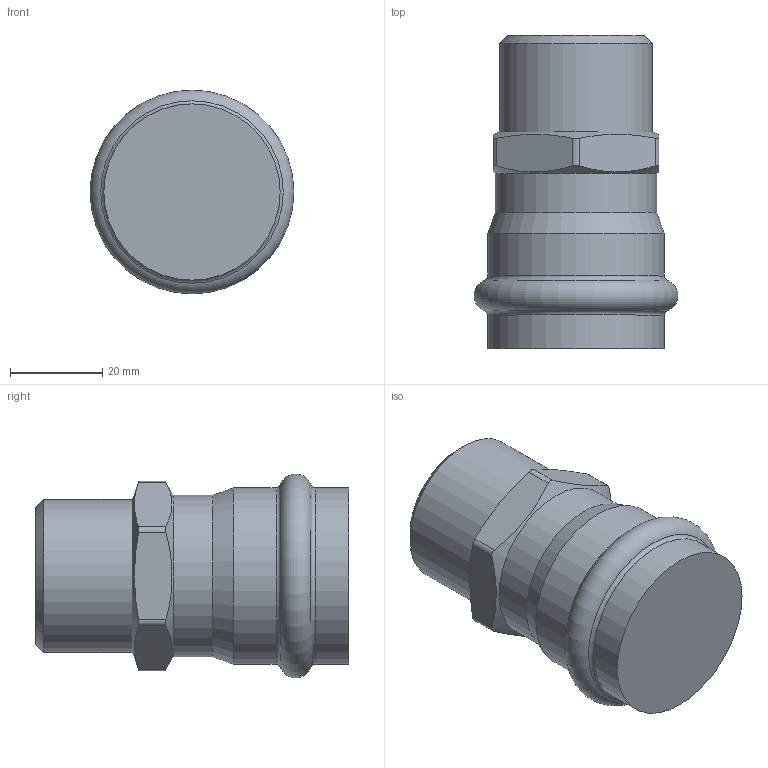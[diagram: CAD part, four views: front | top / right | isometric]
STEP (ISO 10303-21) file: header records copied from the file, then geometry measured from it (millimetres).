
FILE_DESCRIPTION(('STEP AP203'), '1');
FILE_NAME('VTi.901.I.003506', '', ('UNSPECIFIED'), ('UNSPECIFIED'), 'C3D Converter', 'C3D Toolkit', '');
FILE_SCHEMA(('CONFIG_CONTROL_DESIGN'));
Length unit declared in the file: millimetre
Bounding box: 44.28 x 68 x 44.28 mm (x, y, z)
Volume: 71736.6 mm3; surface area: 10388.6 mm2
Topology: 1 solids, 1 shells, 25 faces, 61 edges, 38 vertices
Faces by surface type: cylinder 10, plane 8, cone 4, torus 3
Full cylindrical faces by diameter (mm): 33.249 x1, 35 x1, 38.3 x2
Entity records: 1599 total; most frequent: CARTESIAN_POINT 1057, ORIENTED_EDGE 100, DIRECTION 88, EDGE_CURVE 50, AXIS2_PLACEMENT_3D 38, VERTEX_POINT 38, EDGE_LOOP 36, B_SPLINE_CURVE_WITH_KNOTS 26
